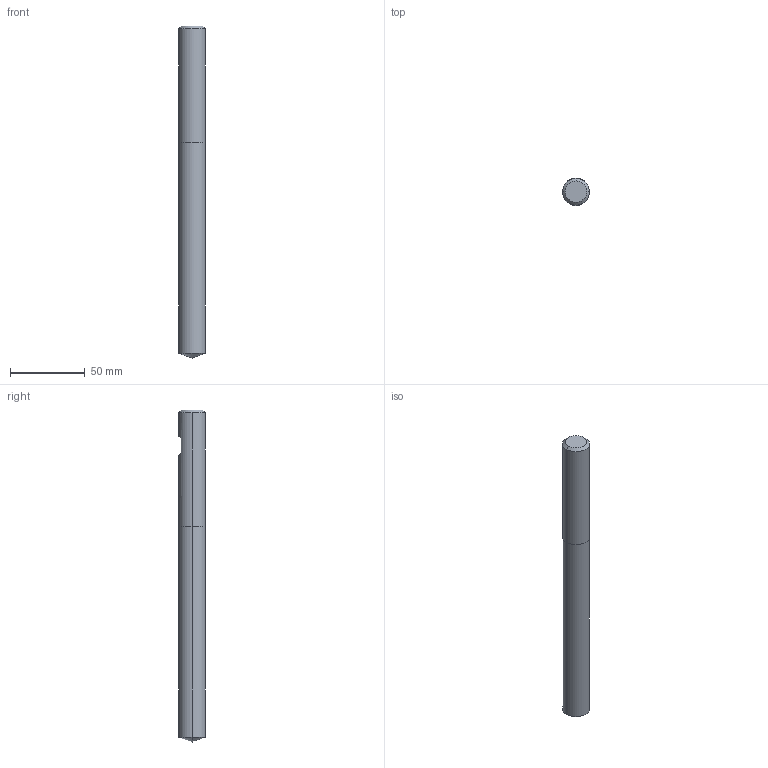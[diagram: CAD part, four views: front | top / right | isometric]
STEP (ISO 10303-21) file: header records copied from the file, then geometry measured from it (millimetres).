
FILE_DESCRIPTION (( 'STEP AP214' ), '1' );
FILE_NAME ('754.180.10_3D-model.step', '2023-08-22T07:37:46', ( '' ), ( '' ), 'SwSTEP 2.0', 'SolidWorks 2020', '' );
FILE_SCHEMA (( 'AUTOMOTIVE_DESIGN' ));
Length unit declared in the file: millimetre
Products named in the file (3): NOCUT-3D^Baugr90; CUT-3D^Baugr90; 754.180.10_3D-model
Assembly tree (2 placements, depth 2):
  754.180.10_3D-model
    CUT-3D^Baugr90
    NOCUT-3D^Baugr90
Bounding box: 18 x 18 x 222 mm (x, y, z)
Volume: 55699.3 mm3; surface area: 13341 mm2
Topology: 2 solids, 2 shells, 14 faces, 26 edges, 15 vertices
Faces by surface type: plane 6, cone 4, cylinder 4
Entity records: 456 total; most frequent: DIRECTION 76, CARTESIAN_POINT 67, ORIENTED_EDGE 48, AXIS2_PLACEMENT_3D 32, EDGE_CURVE 24, VERTEX_POINT 15, EDGE_LOOP 15, FACE_OUTER_BOUND 14
